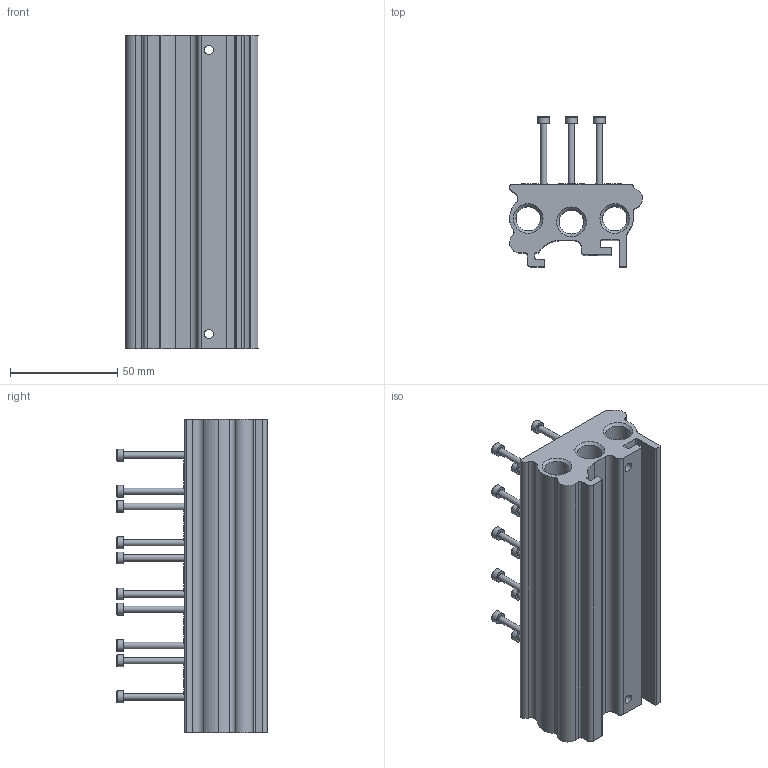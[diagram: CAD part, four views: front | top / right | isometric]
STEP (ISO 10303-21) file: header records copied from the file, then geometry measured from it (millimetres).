
FILE_DESCRIPTION (( 'STEP AP214' ), '1' );
FILE_NAME ('01VB000005A.STEP', '2013-10-03T16:48:14', ( 'ST01' ), ( '' ), 'SwSTEP 2.0', 'SolidWorks 2012', '' );
FILE_SCHEMA (( 'AUTOMOTIVE_DESIGN' ));
Length unit declared in the file: millimetre
Products named in the file (1): 01VB000005A
Bounding box: 62.03 x 70.1 x 146.6 mm (x, y, z)
Surface area: 55732.7 mm2 (no closed solid volume)
Topology: 0 solids, 46 shells, 402 faces, 1121 edges, 708 vertices
Faces by surface type: plane 189, cylinder 100, cone 68, torus 45
Full cylindrical faces by diameter (mm): 3 x15, 4.2 x2, 5.5 x15, 8 x15, 10.5 x2, 11.445 x6, 13 x15
Entity records: 16541 total; most frequent: CARTESIAN_POINT 2874, DIRECTION 2052, ORIENTED_EDGE 1457, EDGE_CURVE 863, AXIS2_PLACEMENT_3D 801, VERTEX_POINT 633, EDGE_LOOP 625, FACE_OUTER_BOUND 487
